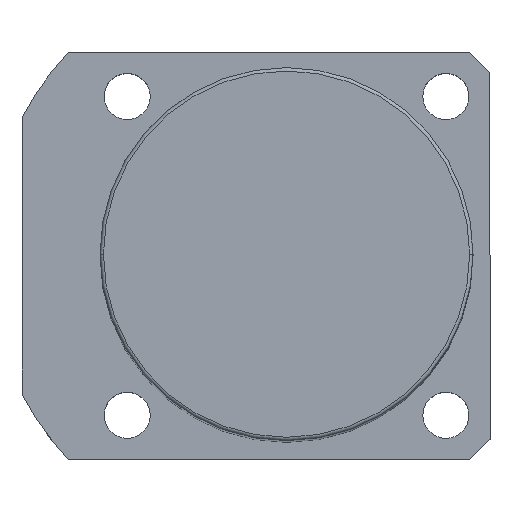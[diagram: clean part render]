
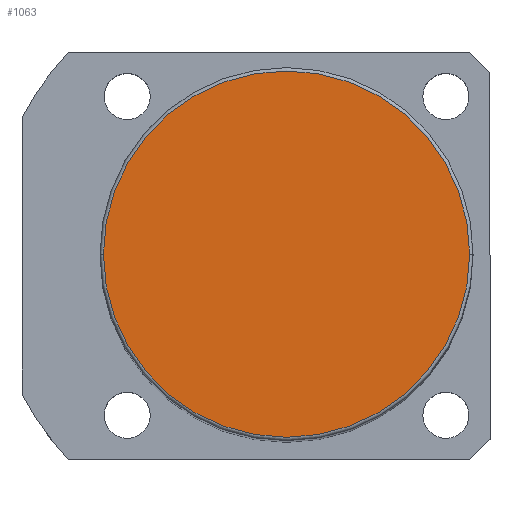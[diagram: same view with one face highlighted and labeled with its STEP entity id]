
A CAD part, top view. The second image highlights one B-rep face of the part: STEP entity #1063.
In plain terms, the highlighted planar face has unit normal (0, 0, 1).
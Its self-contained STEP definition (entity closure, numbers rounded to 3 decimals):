
#38 = EDGE_LOOP ( 'NONE', ( #1420, #1465 ) ) ;
#98 = DIRECTION ( 'NONE',  ( 0., 0., 1. ) ) ;
#116 = CARTESIAN_POINT ( 'NONE',  ( 0., 0., 156. ) ) ;
#151 = VERTEX_POINT ( 'NONE', #1189 ) ;
#183 = VERTEX_POINT ( 'NONE', #213 ) ;
#213 = CARTESIAN_POINT ( 'NONE',  ( 27., 0., 156. ) ) ;
#267 = CIRCLE ( 'NONE', #385, 27. ) ;
#315 = DIRECTION ( 'NONE',  ( 0., 0., 1. ) ) ;
#385 = AXIS2_PLACEMENT_3D ( 'NONE', #116, #1684, #828 ) ;
#652 = DIRECTION ( 'NONE',  ( 1., 0., 0. ) ) ;
#693 = FACE_OUTER_BOUND ( 'NONE', #38, .T. ) ;
#764 = EDGE_CURVE ( 'NONE', #151, #183, #1205, .T. ) ;
#828 = DIRECTION ( 'NONE',  ( 1., 0., 0. ) ) ;
#854 = AXIS2_PLACEMENT_3D ( 'NONE', #1589, #315, #1604 ) ;
#893 = EDGE_CURVE ( 'NONE', #183, #151, #267, .T. ) ;
#1063 = ADVANCED_FACE ( 'NONE', ( #693 ), #1301, .T. ) ;
#1089 = CARTESIAN_POINT ( 'NONE',  ( 0., 0., 156. ) ) ;
#1189 = CARTESIAN_POINT ( 'NONE',  ( -27., 0., 156. ) ) ;
#1205 = CIRCLE ( 'NONE', #1404, 27. ) ;
#1301 = PLANE ( 'NONE',  #854 ) ;
#1404 = AXIS2_PLACEMENT_3D ( 'NONE', #1089, #98, #652 ) ;
#1420 = ORIENTED_EDGE ( 'NONE', *, *, #893, .T. ) ;
#1465 = ORIENTED_EDGE ( 'NONE', *, *, #764, .T. ) ;
#1589 = CARTESIAN_POINT ( 'NONE',  ( 0., 0., 156. ) ) ;
#1604 = DIRECTION ( 'NONE',  ( 1., 0., 0. ) ) ;
#1684 = DIRECTION ( 'NONE',  ( 0., 0., 1. ) ) ;
